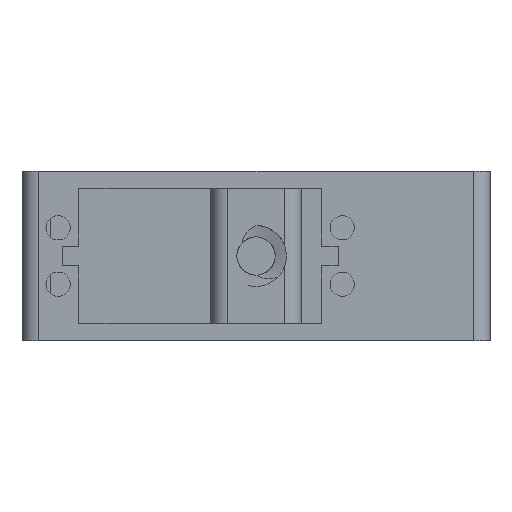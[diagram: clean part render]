
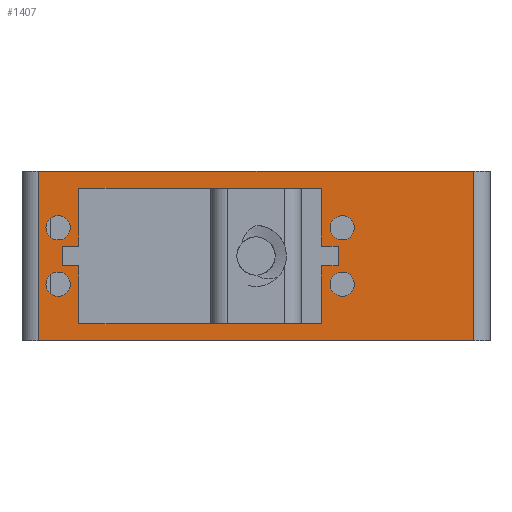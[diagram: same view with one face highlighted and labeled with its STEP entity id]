
A CAD part, front view. The second image highlights one B-rep face of the part: STEP entity #1407.
In plain terms, the highlighted planar face has unit normal (0, -1, 0).
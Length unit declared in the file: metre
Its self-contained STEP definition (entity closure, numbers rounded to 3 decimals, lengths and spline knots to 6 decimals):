
#63=CIRCLE('',#1517,0.00215);
#64=CIRCLE('',#1518,0.00215);
#65=CIRCLE('',#1519,0.00215);
#66=CIRCLE('',#1520,0.00215);
#190=ORIENTED_EDGE('',*,*,#600,.F.);
#191=ORIENTED_EDGE('',*,*,#601,.F.);
#192=ORIENTED_EDGE('',*,*,#602,.F.);
#193=ORIENTED_EDGE('',*,*,#603,.F.);
#194=ORIENTED_EDGE('',*,*,#493,.F.);
#195=ORIENTED_EDGE('',*,*,#604,.T.);
#196=ORIENTED_EDGE('',*,*,#543,.T.);
#197=ORIENTED_EDGE('',*,*,#605,.T.);
#198=ORIENTED_EDGE('',*,*,#606,.T.);
#199=ORIENTED_EDGE('',*,*,#607,.T.);
#200=ORIENTED_EDGE('',*,*,#608,.F.);
#201=ORIENTED_EDGE('',*,*,#609,.T.);
#202=ORIENTED_EDGE('',*,*,#610,.F.);
#203=ORIENTED_EDGE('',*,*,#611,.F.);
#204=ORIENTED_EDGE('',*,*,#612,.F.);
#205=ORIENTED_EDGE('',*,*,#613,.F.);
#206=ORIENTED_EDGE('',*,*,#614,.T.);
#207=ORIENTED_EDGE('',*,*,#615,.F.);
#208=ORIENTED_EDGE('',*,*,#616,.T.);
#209=ORIENTED_EDGE('',*,*,#617,.T.);
#493=EDGE_CURVE('',#699,#700,#838,.T.);
#543=EDGE_CURVE('',#749,#750,#879,.T.);
#600=EDGE_CURVE('',#804,#804,#63,.T.);
#601=EDGE_CURVE('',#805,#805,#64,.T.);
#602=EDGE_CURVE('',#806,#806,#65,.T.);
#603=EDGE_CURVE('',#807,#807,#66,.T.);
#604=EDGE_CURVE('',#699,#749,#922,.T.);
#605=EDGE_CURVE('',#750,#700,#923,.F.);
#606=EDGE_CURVE('',#808,#809,#924,.T.);
#607=EDGE_CURVE('',#809,#810,#925,.T.);
#608=EDGE_CURVE('',#811,#810,#926,.T.);
#609=EDGE_CURVE('',#811,#812,#927,.T.);
#610=EDGE_CURVE('',#813,#812,#928,.T.);
#611=EDGE_CURVE('',#814,#813,#929,.T.);
#612=EDGE_CURVE('',#815,#814,#930,.T.);
#613=EDGE_CURVE('',#816,#815,#931,.T.);
#614=EDGE_CURVE('',#816,#817,#932,.T.);
#615=EDGE_CURVE('',#818,#817,#933,.T.);
#616=EDGE_CURVE('',#818,#819,#934,.T.);
#617=EDGE_CURVE('',#819,#808,#935,.T.);
#699=VERTEX_POINT('',#1984);
#700=VERTEX_POINT('',#1986);
#749=VERTEX_POINT('',#2086);
#750=VERTEX_POINT('',#2087);
#804=VERTEX_POINT('',#2200);
#805=VERTEX_POINT('',#2202);
#806=VERTEX_POINT('',#2204);
#807=VERTEX_POINT('',#2206);
#808=VERTEX_POINT('',#2210);
#809=VERTEX_POINT('',#2211);
#810=VERTEX_POINT('',#2213);
#811=VERTEX_POINT('',#2215);
#812=VERTEX_POINT('',#2217);
#813=VERTEX_POINT('',#2219);
#814=VERTEX_POINT('',#2221);
#815=VERTEX_POINT('',#2223);
#816=VERTEX_POINT('',#2225);
#817=VERTEX_POINT('',#2227);
#818=VERTEX_POINT('',#2229);
#819=VERTEX_POINT('',#2231);
#838=LINE('',#1985,#1002);
#879=LINE('',#2085,#1043);
#922=LINE('',#2207,#1086);
#923=LINE('',#2208,#1087);
#924=LINE('',#2209,#1088);
#925=LINE('',#2212,#1089);
#926=LINE('',#2214,#1090);
#927=LINE('',#2216,#1091);
#928=LINE('',#2218,#1092);
#929=LINE('',#2220,#1093);
#930=LINE('',#2222,#1094);
#931=LINE('',#2224,#1095);
#932=LINE('',#2226,#1096);
#933=LINE('',#2228,#1097);
#934=LINE('',#2230,#1098);
#935=LINE('',#2232,#1099);
#1002=VECTOR('',#1606,1.);
#1043=VECTOR('',#1667,1.);
#1086=VECTOR('',#1750,1.);
#1087=VECTOR('',#1751,1.);
#1088=VECTOR('',#1752,1.);
#1089=VECTOR('',#1753,1.);
#1090=VECTOR('',#1754,1.);
#1091=VECTOR('',#1755,1.);
#1092=VECTOR('',#1756,1.);
#1093=VECTOR('',#1757,1.);
#1094=VECTOR('',#1758,1.);
#1095=VECTOR('',#1759,1.);
#1096=VECTOR('',#1760,1.);
#1097=VECTOR('',#1761,1.);
#1098=VECTOR('',#1762,1.);
#1099=VECTOR('',#1763,1.);
#1176=EDGE_LOOP('',(#190));
#1177=EDGE_LOOP('',(#191));
#1178=EDGE_LOOP('',(#192));
#1179=EDGE_LOOP('',(#193));
#1180=EDGE_LOOP('',(#194,#195,#196,#197));
#1181=EDGE_LOOP('',(#198,#199,#200,#201,#202,#203,#204,#205,#206,#207,#208,
#209));
#1272=FACE_BOUND('',#1176,.T.);
#1273=FACE_BOUND('',#1177,.T.);
#1274=FACE_BOUND('',#1178,.T.);
#1275=FACE_BOUND('',#1179,.T.);
#1276=FACE_BOUND('',#1180,.T.);
#1277=FACE_BOUND('',#1181,.T.);
#1353=PLANE('',#1516);
#1407=ADVANCED_FACE('',(#1272,#1273,#1274,#1275,#1276,#1277),#1353,.F.);
#1516=AXIS2_PLACEMENT_3D('',#2198,#1740,#1741);
#1517=AXIS2_PLACEMENT_3D('',#2199,#1742,#1743);
#1518=AXIS2_PLACEMENT_3D('',#2201,#1744,#1745);
#1519=AXIS2_PLACEMENT_3D('',#2203,#1746,#1747);
#1520=AXIS2_PLACEMENT_3D('',#2205,#1748,#1749);
#1606=DIRECTION('',(1.,0.,0.));
#1667=DIRECTION('',(1.,0.,0.));
#1740=DIRECTION('',(0.,1.,0.));
#1741=DIRECTION('',(0.,0.,1.));
#1742=DIRECTION('',(0.,-1.,0.));
#1743=DIRECTION('',(0.,0.,-1.));
#1744=DIRECTION('',(0.,-1.,0.));
#1745=DIRECTION('',(0.,0.,-1.));
#1746=DIRECTION('',(0.,-1.,0.));
#1747=DIRECTION('',(0.,0.,-1.));
#1748=DIRECTION('',(0.,-1.,0.));
#1749=DIRECTION('',(0.,0.,-1.));
#1750=DIRECTION('',(0.,0.,-1.));
#1751=DIRECTION('',(0.,0.,-1.));
#1752=DIRECTION('',(1.,0.,0.));
#1753=DIRECTION('',(0.,0.,-1.));
#1754=DIRECTION('',(1.,0.,0.));
#1755=DIRECTION('',(0.,0.,-1.));
#1756=DIRECTION('',(1.,0.,0.));
#1757=DIRECTION('',(0.,0.,-1.));
#1758=DIRECTION('',(1.,0.,0.));
#1759=DIRECTION('',(0.,0.,-1.));
#1760=DIRECTION('',(1.,0.,0.));
#1761=DIRECTION('',(0.,0.,-1.));
#1762=DIRECTION('',(1.,0.,0.));
#1763=DIRECTION('',(0.,0.,-1.));
#1984=CARTESIAN_POINT('',(-0.056911,-0.137844,0.03));
#1985=CARTESIAN_POINT('',(-0.018411,-0.137844,0.03));
#1986=CARTESIAN_POINT('',(0.020089,-0.137844,0.03));
#2085=CARTESIAN_POINT('',(-0.018411,-0.137844,0.));
#2086=CARTESIAN_POINT('',(-0.056911,-0.137844,0.));
#2087=CARTESIAN_POINT('',(0.020089,-0.137844,0.));
#2198=CARTESIAN_POINT('',(-0.018411,-0.137844,0.03));
#2199=CARTESIAN_POINT('',(-0.053511,-0.137844,0.01));
#2200=CARTESIAN_POINT('',(-0.053511,-0.137844,0.00785));
#2201=CARTESIAN_POINT('',(-0.053511,-0.137844,0.02));
#2202=CARTESIAN_POINT('',(-0.053511,-0.137844,0.01785));
#2203=CARTESIAN_POINT('',(-0.003111,-0.137844,0.01));
#2204=CARTESIAN_POINT('',(-0.003111,-0.137844,0.00785));
#2205=CARTESIAN_POINT('',(-0.003111,-0.137844,0.02));
#2206=CARTESIAN_POINT('',(-0.003111,-0.137844,0.01785));
#2207=CARTESIAN_POINT('',(-0.056911,-0.137844,0.03));
#2208=CARTESIAN_POINT('',(0.020089,-0.137844,0.03));
#2209=CARTESIAN_POINT('',(-0.005311,-0.137844,0.01675));
#2210=CARTESIAN_POINT('',(-0.006811,-0.137844,0.01675));
#2211=CARTESIAN_POINT('',(-0.003811,-0.137844,0.01675));
#2212=CARTESIAN_POINT('',(-0.003811,-0.137844,0.015));
#2213=CARTESIAN_POINT('',(-0.003811,-0.137844,0.01325));
#2214=CARTESIAN_POINT('',(-0.005311,-0.137844,0.01325));
#2215=CARTESIAN_POINT('',(-0.006811,-0.137844,0.01325));
#2216=CARTESIAN_POINT('',(-0.006811,-0.137844,0.008125));
#2217=CARTESIAN_POINT('',(-0.006811,-0.137844,0.003));
#2218=CARTESIAN_POINT('',(-0.028311,-0.137844,0.003));
#2219=CARTESIAN_POINT('',(-0.049811,-0.137844,0.003));
#2220=CARTESIAN_POINT('',(-0.049811,-0.137844,0.008125));
#2221=CARTESIAN_POINT('',(-0.049811,-0.137844,0.01325));
#2222=CARTESIAN_POINT('',(-0.051311,-0.137844,0.01325));
#2223=CARTESIAN_POINT('',(-0.052811,-0.137844,0.01325));
#2224=CARTESIAN_POINT('',(-0.052811,-0.137844,0.015));
#2225=CARTESIAN_POINT('',(-0.052811,-0.137844,0.01675));
#2226=CARTESIAN_POINT('',(-0.051311,-0.137844,0.01675));
#2227=CARTESIAN_POINT('',(-0.049811,-0.137844,0.01675));
#2228=CARTESIAN_POINT('',(-0.049811,-0.137844,0.021875));
#2229=CARTESIAN_POINT('',(-0.049811,-0.137844,0.027));
#2230=CARTESIAN_POINT('',(-0.028311,-0.137844,0.027));
#2231=CARTESIAN_POINT('',(-0.006811,-0.137844,0.027));
#2232=CARTESIAN_POINT('',(-0.006811,-0.137844,0.021875));
